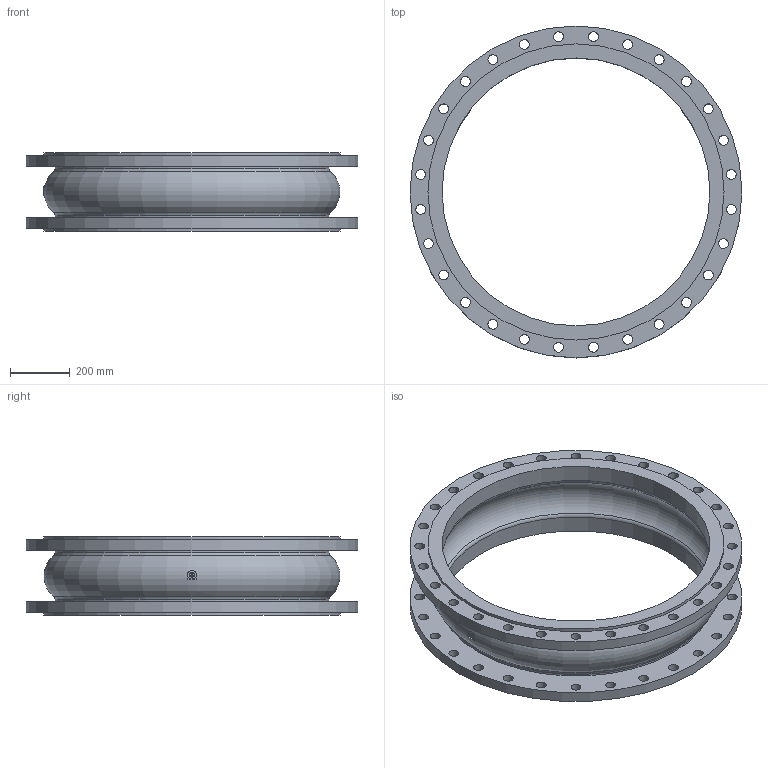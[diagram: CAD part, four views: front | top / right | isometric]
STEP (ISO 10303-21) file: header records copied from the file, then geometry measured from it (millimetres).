
FILE_DESCRIPTION(('STEP AP203'), '1');
FILE_NAME('Êîìïåíñàòîð KMS DN900 PN10', '', ('UNSPECIFIED'), ('UNSPECIFIED'), 'ASCON STEP Converter 1.6', 'ASCON Math Kernel', '');
FILE_SCHEMA(('CONFIG_CONTROL_DESIGN'));
Length unit declared in the file: millimetre
Bounding box: 1115 x 1115 x 265 mm (x, y, z)
Volume: 31500126.7 mm3; surface area: 3160863.9 mm2
Topology: 1 solids, 1 shells, 93 faces, 244 edges, 160 vertices
Faces by surface type: cylinder 71, plane 13, torus 9
Full cylindrical faces by diameter (mm): 33 x56, 900 x2, 920 x2, 995 x2, 1115 x2
Entity records: 4558 total; most frequent: CARTESIAN_POINT 1441, DIRECTION 478, ORIENTED_EDGE 348, EDGE_LOOP 284, AXIS2_PLACEMENT_3D 232, EDGE_CURVE 174, VERTEX_POINT 160, FACE_BOUND 144
